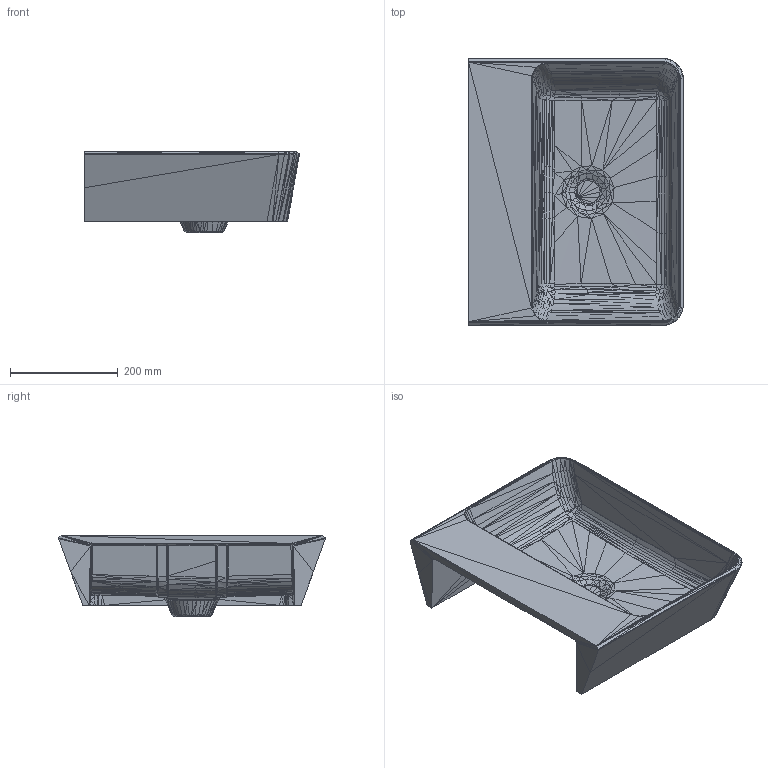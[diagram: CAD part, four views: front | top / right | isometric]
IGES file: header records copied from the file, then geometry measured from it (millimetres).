
Global section: file name: C:\Users\Sam Altman L JackSon\Downloads\Additional 2D and 3D files required for V+A NPD\Vetralla 50 0 holes\Vetralla 50 0 hole - 3d igs.igs; native system: Rhinoceros ( Mar  4 2026 ); preprocessor: Trout Lake IGES 012 Mar  4 2026; date: 260508.110215; units: millimetre
Bounding box: 398.98 x 495.79 x 151.12 mm (x, y, z)
Surface area: 756040.4 mm2 (no closed solid volume)
Topology: 0 solids, 0 shells, 2840 faces, 8978 edges, 8978 vertices
Faces by surface type: bspline 2840
